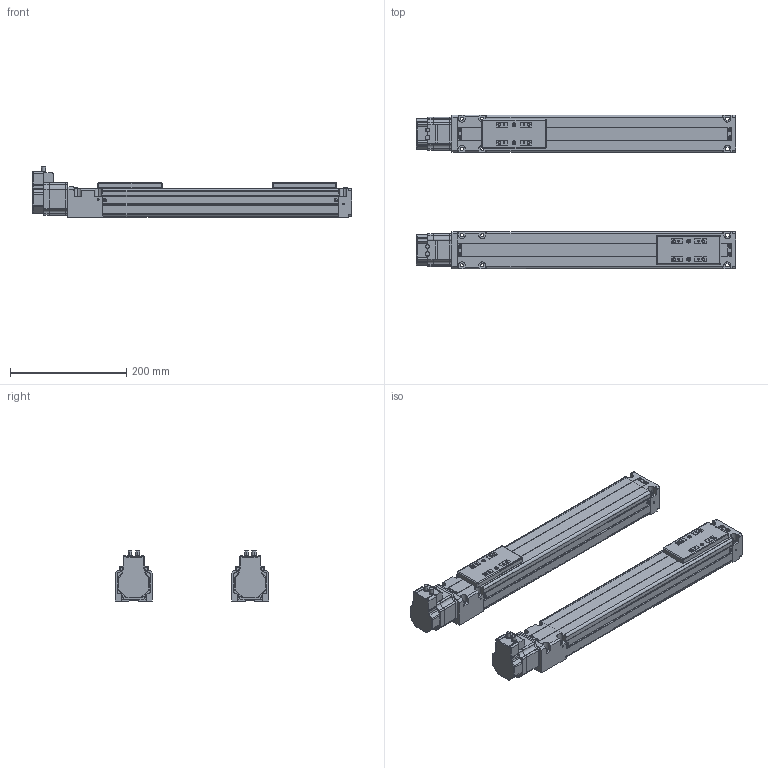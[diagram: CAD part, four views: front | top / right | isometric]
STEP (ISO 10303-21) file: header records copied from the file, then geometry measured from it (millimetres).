
FILE_DESCRIPTION(('STEP AP214'),'1');
FILE_NAME('Z:\外形図\3D DAD2\SCLT6_B\tmp0.step',' ',(' '),(' '),'XStep 1.0',' ',' ');
FILE_SCHEMA(('automotive_design'));
Length unit declared in the file: millimetre
Products named in the file (18): VLAST60-06-0300-0-0N (0) (300)|_VLA-ST-60-12-0050 Slider;_VLA-ST-60-12-0050 Slider; 4; 8; 3; 1; VLAST60-06-0300-0-0N (0) (300)|_VLA-ST-60-12-0300 Body;_VLA-ST-60-12-0300 Body; 5; 7; 9; 6; 2; 10
Bounding box: 548 x 264 x 85.99 mm (x, y, z)
Volume: 1351350 mm3; surface area: 602000.7 mm2
Topology: 18 solids, 18 shells, 1666 faces, 4374 edges, 2760 vertices
Faces by surface type: plane 984, cylinder 424, cone 172, bspline 78, sphere 8
Entity records: 66857 total; most frequent: CARTESIAN_POINT 11460, ORIENTED_EDGE 8700, DIRECTION 8594, EDGE_CURVE 4350, LINE 3134, VECTOR 3134, VERTEX_POINT 2760, AXIS2_PLACEMENT_3D 2730
